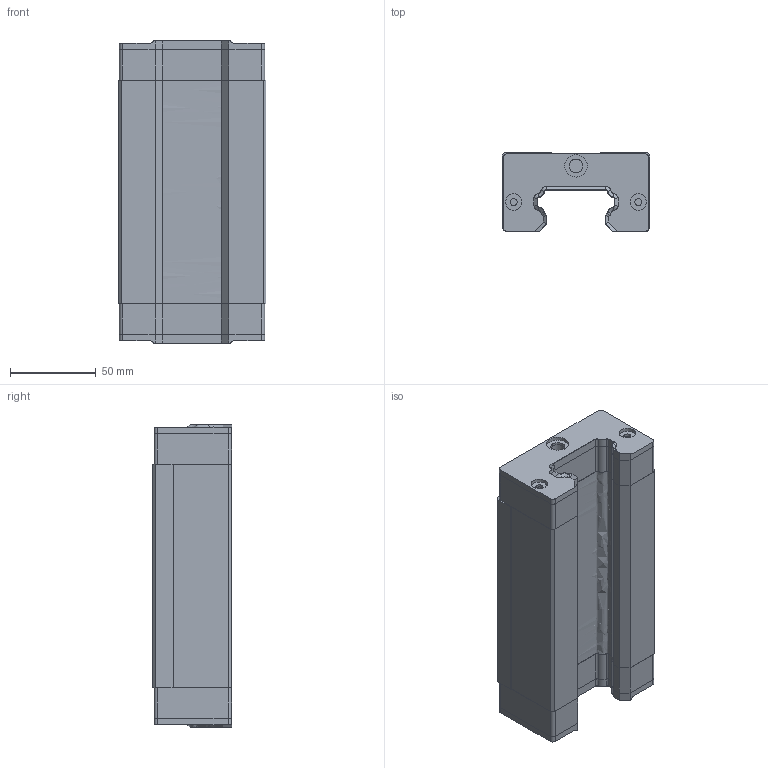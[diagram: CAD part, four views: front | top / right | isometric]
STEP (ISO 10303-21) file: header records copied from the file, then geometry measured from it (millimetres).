
FILE_DESCRIPTION(('FreeCAD Model'),'2;1');
FILE_NAME('Open CASCADE Shape Model','2022-10-12T10:34:06',('Author'),( ''),'Open CASCADE STEP processor 7.5','FreeCAD','Unknown');
FILE_SCHEMA(('AUTOMOTIVE_DESIGN { 1 0 10303 214 1 1 1 1 }'));
Length unit declared in the file: millimetre
Products named in the file (4): Unnamed; Product005; Product; Product001
Assembly tree (5 placements, depth 2):
  Unnamed
    Product005
    Product  x2
    Product001  x2
Bounding box: 86 x 46 x 176 mm (x, y, z)
Volume: 509361.1 mm3; surface area: 88061.1 mm2
Topology: 5 solids, 5 shells, 220 faces, 614 edges, 414 vertices
Faces by surface type: plane 117, bspline 65, cylinder 38
Full cylindrical faces by diameter (mm): 4 x8, 8 x4, 9.5 x4, 10 x4, 13 x2
Entity records: 9912 total; most frequent: CARTESIAN_POINT 3830, DIRECTION 841, ORIENTED_EDGE 692, PCURVE 692, DEFINITIONAL_REPRESENTATION 692, LINE 521, VECTOR 521, EDGE_CURVE 346
